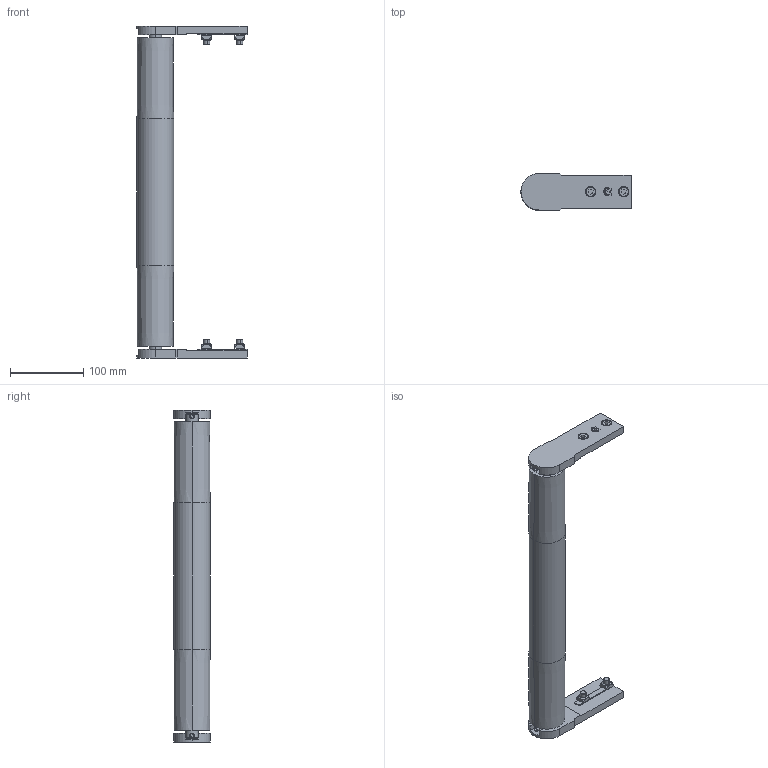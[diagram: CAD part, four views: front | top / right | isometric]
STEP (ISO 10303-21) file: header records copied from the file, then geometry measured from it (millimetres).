
FILE_DESCRIPTION (( 'STEP AP203' ), '1' );
FILE_NAME ('084.050.KIO.400.STEP', '2015-06-03T08:17:09', ( '' ), ( '' ), 'SwSTEP 2.0', 'SolidWorks 2012', '' );
FILE_SCHEMA (( 'CONFIG_CONTROL_DESIGN' ));
Length unit declared in the file: millimetre
Products named in the file (1): 084.050.KIO.400
Bounding box: 150 x 50 x 452 mm (x, y, z)
Volume: 643385.5 mm3; surface area: 195009 mm2
Topology: 18 solids, 18 shells, 426 faces, 1032 edges, 672 vertices
Faces by surface type: plane 180, cylinder 112, cone 48, bspline 46, torus 40
Entity records: 13439 total; most frequent: CARTESIAN_POINT 3433, ORIENTED_EDGE 2064, DIRECTION 2002, EDGE_CURVE 1032, AXIS2_PLACEMENT_3D 745, VERTEX_POINT 672, VECTOR 512, LINE 512
